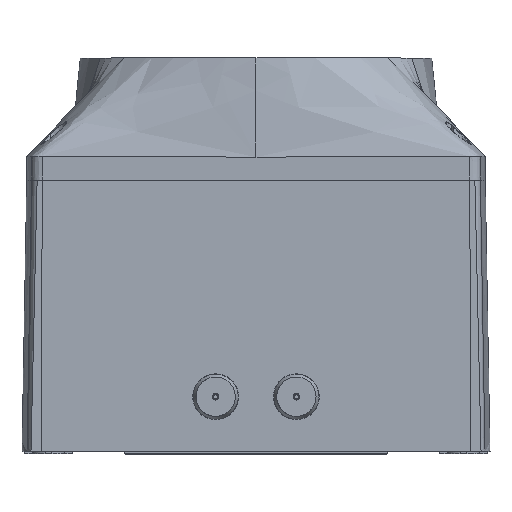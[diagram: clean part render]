
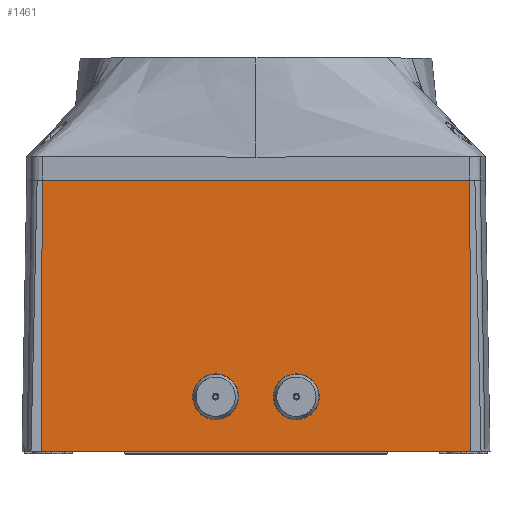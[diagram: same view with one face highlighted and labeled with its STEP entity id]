
A CAD part, top view. The second image highlights one B-rep face of the part: STEP entity #1461.
In plain terms, the highlighted planar face has unit normal (0, 0, 1).
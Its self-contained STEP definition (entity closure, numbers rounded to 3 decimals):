
#1456 = EDGE_CURVE ( 'NONE', #16913, #16913, #8686, .T. ) ;
#1461 = ADVANCED_FACE ( 'NONE', ( #8745, #8721, #8821 ), #8820, .T. ) ;
#1462 = VERTEX_POINT ( 'NONE', #8810 ) ;
#1464 = EDGE_LOOP ( 'NONE', ( #1465 ) ) ;
#1465 = ORIENTED_EDGE ( 'NONE', *, *, #1456, .F. ) ;
#1466 = ORIENTED_EDGE ( 'NONE', *, *, #1468, .T. ) ;
#1467 = ORIENTED_EDGE ( 'NONE', *, *, #1546, .F. ) ;
#1468 = EDGE_CURVE ( 'NONE', #1462, #1469, #8674, .T. ) ;
#1469 = VERTEX_POINT ( 'NONE', #8683 ) ;
#1537 = EDGE_CURVE ( 'NONE', #1579, #1469, #8982, .T. ) ;
#1539 = ORIENTED_EDGE ( 'NONE', *, *, #1537, .F. ) ;
#1544 = EDGE_LOOP ( 'NONE', ( #1576 ) ) ;
#1546 = EDGE_CURVE ( 'NONE', #1462, #1580, #8872, .T. ) ;
#1547 = EDGE_CURVE ( 'NONE', #16904, #16904, #8981, .T. ) ;
#1553 = EDGE_LOOP ( 'NONE', ( #1467, #1466, #1539, #1569 ) ) ;
#1566 = EDGE_CURVE ( 'NONE', #1579, #1580, #9165, .T. ) ;
#1569 = ORIENTED_EDGE ( 'NONE', *, *, #1566, .T. ) ;
#1576 = ORIENTED_EDGE ( 'NONE', *, *, #1547, .F. ) ;
#1579 = VERTEX_POINT ( 'NONE', #9213 ) ;
#1580 = VERTEX_POINT ( 'NONE', #9214 ) ;
#8671 = DIRECTION ( 'NONE',  ( -0.004, -1., 0. ) ) ;
#8672 = VECTOR ( 'NONE', #8671, 1000. ) ;
#8673 = CARTESIAN_POINT ( 'NONE',  ( -99.592, -348.378, 85. ) ) ;
#8674 = LINE ( 'NONE', #8673, #8672 ) ;
#8679 = DIRECTION ( 'NONE',  ( 1., 0., 0. ) ) ;
#8680 = DIRECTION ( 'NONE',  ( 0., 0., 1. ) ) ;
#8681 = CARTESIAN_POINT ( 'NONE',  ( -97.871, -348.385, 85. ) ) ;
#8683 = CARTESIAN_POINT ( 'NONE',  ( -98.413, -78.2, 85. ) ) ;
#8686 = CIRCLE ( 'NONE', #8726, 10.5 ) ;
#8721 = FACE_BOUND ( 'NONE', #1464, .T. ) ;
#8723 = DIRECTION ( 'NONE',  ( 1., 0., 0. ) ) ;
#8724 = DIRECTION ( 'NONE',  ( 0., 0., 1. ) ) ;
#8725 = CARTESIAN_POINT ( 'NONE',  ( -18.5, -53.2, 85. ) ) ;
#8726 = AXIS2_PLACEMENT_3D ( 'NONE', #8725, #8724, #8723 ) ;
#8727 = AXIS2_PLACEMENT_3D ( 'NONE', #8681, #8680, #8679 ) ;
#8745 = FACE_BOUND ( 'NONE', #1544, .T. ) ;
#8810 = CARTESIAN_POINT ( 'NONE',  ( -97.871, 46., 85. ) ) ;
#8820 = PLANE ( 'NONE',  #8727 ) ;
#8821 = FACE_OUTER_BOUND ( 'NONE', #1553, .T. ) ;
#8834 = CARTESIAN_POINT ( 'NONE',  ( 18.5, -53.2, 85. ) ) ;
#8843 = DIRECTION ( 'NONE',  ( -1., 0., 0. ) ) ;
#8863 = DIRECTION ( 'NONE',  ( 1., 0., 0. ) ) ;
#8864 = DIRECTION ( 'NONE',  ( 0., 0., 1. ) ) ;
#8869 = DIRECTION ( 'NONE',  ( 1., 0., 0. ) ) ;
#8870 = VECTOR ( 'NONE', #8869, 1000. ) ;
#8871 = CARTESIAN_POINT ( 'NONE',  ( -97.871, 46., 85. ) ) ;
#8872 = LINE ( 'NONE', #8871, #8870 ) ;
#8873 = AXIS2_PLACEMENT_3D ( 'NONE', #8834, #8864, #8863 ) ;
#8979 = VECTOR ( 'NONE', #8843, 1000. ) ;
#8980 = CARTESIAN_POINT ( 'NONE',  ( -97.871, -78.2, 85. ) ) ;
#8981 = CIRCLE ( 'NONE', #8873, 10.5 ) ;
#8982 = LINE ( 'NONE', #8980, #8979 ) ;
#9162 = DIRECTION ( 'NONE',  ( -0.004, 1., 0. ) ) ;
#9163 = VECTOR ( 'NONE', #9162, 1000. ) ;
#9164 = CARTESIAN_POINT ( 'NONE',  ( 99.588, -347.524, 85. ) ) ;
#9165 = LINE ( 'NONE', #9164, #9163 ) ;
#9213 = CARTESIAN_POINT ( 'NONE',  ( 98.413, -78.2, 85. ) ) ;
#9214 = CARTESIAN_POINT ( 'NONE',  ( 97.871, 46., 85. ) ) ;
#16901 = CARTESIAN_POINT ( 'NONE',  ( 29., -53.2, 85. ) ) ;
#16904 = VERTEX_POINT ( 'NONE', #16901 ) ;
#16911 = CARTESIAN_POINT ( 'NONE',  ( -8., -53.2, 85. ) ) ;
#16913 = VERTEX_POINT ( 'NONE', #16911 ) ;
